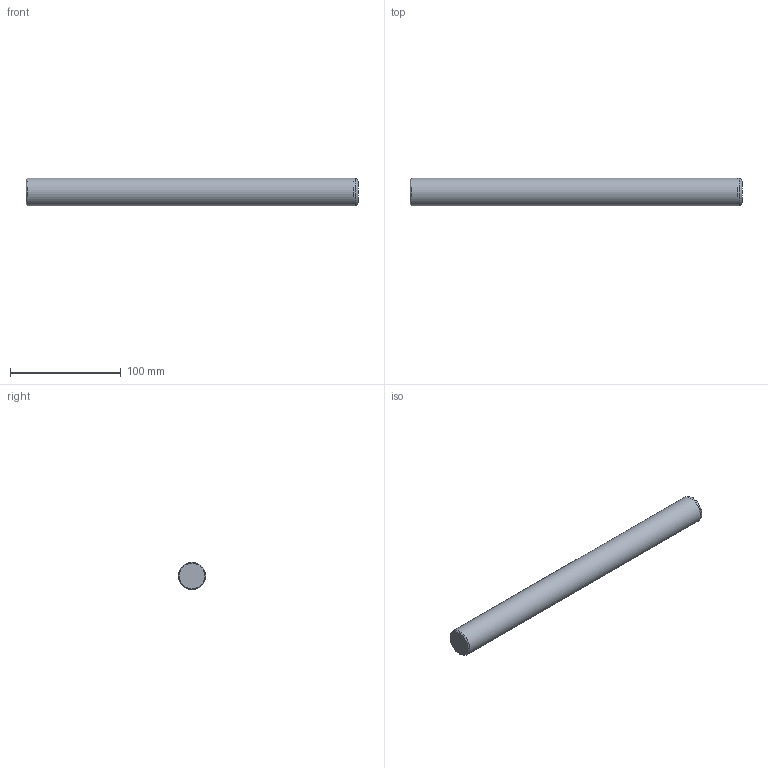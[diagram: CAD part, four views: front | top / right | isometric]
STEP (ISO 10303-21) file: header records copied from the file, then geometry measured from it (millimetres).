
FILE_DESCRIPTION(/* description */ ('Impex Ready, www.impex-ready.pl'),/* implementation_level */ '2;1');
FILE_NAME(/* name */ 'C:\Users\VIKKY\Nextcloud\SM\projekt 10 - części na stronę internetową\Pliki_3D_new\256 CIS Słup\256 CIS_STEP\CIS25300.ipt.step',/* time_stamp */ '2021-12-20T12:42:38+01:00',/* author */ ('SM'),/* organization */ (''),/* preprocessor_version */ 'ST-DEVELOPER v18.1',/* originating_system */ 'Autodesk Inventor 2021',/* authorisation */ '');
FILE_SCHEMA (('AUTOMOTIVE_DESIGN { 1 0 10303 214 3 1 1 }'));
Length unit declared in the file: millimetre
Products named in the file (1): CIS25300
Bounding box: 300 x 25 x 25 mm (x, y, z)
Volume: 146996.9 mm3; surface area: 24364 mm2
Topology: 1 solids, 1 shells, 6 faces, 12 edges, 8 vertices
Faces by surface type: cone 2, plane 2, torus 1, cylinder 1
Full cylindrical faces by diameter (mm): 25 x1
Entity records: 239 total; most frequent: DIRECTION 35, CARTESIAN_POINT 27, ORIENTED_EDGE 24, AXIS2_PLACEMENT_3D 16, EDGE_CURVE 12, CIRCLE 9, VERTEX_POINT 8, STYLED_ITEM 7
